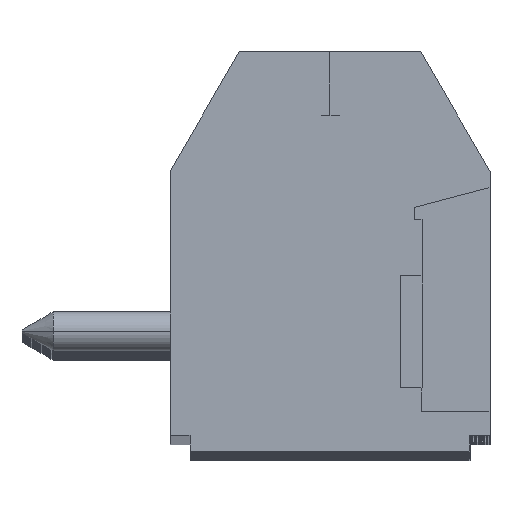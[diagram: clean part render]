
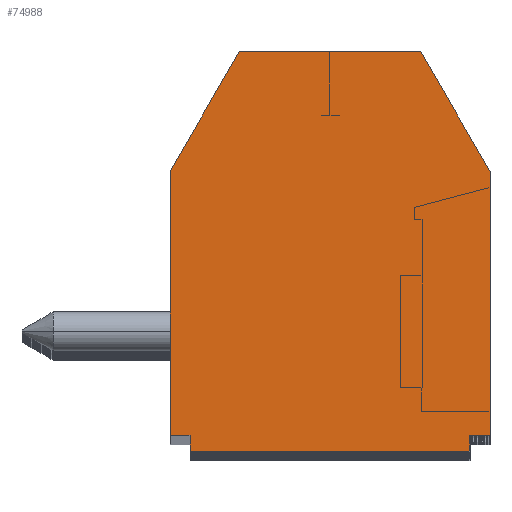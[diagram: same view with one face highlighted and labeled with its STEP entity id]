
A CAD part, top view. The second image highlights one B-rep face of the part: STEP entity #74988.
In plain terms, the highlighted planar face has unit normal (0, 0, 1).
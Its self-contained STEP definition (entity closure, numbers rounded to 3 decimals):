
#3987 = CARTESIAN_POINT ( 'NONE',  ( -3.062, -3.245, 0. ) ) ;
#14507 = CARTESIAN_POINT ( 'NONE',  ( -3.062, -2.845, 0. ) ) ;
#14508 = DIRECTION ( 'NONE',  ( 0., -1., 0. ) ) ;
#14509 = VECTOR ( 'NONE', #14508, 1000. ) ;
#14510 = CARTESIAN_POINT ( 'NONE',  ( -3.062, -3.045, 0. ) ) ;
#14511 = LINE ( 'NONE', #14510, #14509 ) ;
#17859 = CARTESIAN_POINT ( 'NONE',  ( 4.438, -2.845, 0. ) ) ;
#17880 = DIRECTION ( 'NONE',  ( 0., 1., 0. ) ) ;
#17881 = VECTOR ( 'NONE', #17880, 1000. ) ;
#17882 = CARTESIAN_POINT ( 'NONE',  ( 3.938, 1.755, 0. ) ) ;
#17883 = LINE ( 'NONE', #17882, #17881 ) ;
#17884 = CARTESIAN_POINT ( 'NONE',  ( 3.938, -2.845, 0. ) ) ;
#17904 = DIRECTION ( 'NONE',  ( 1., 0., 0. ) ) ;
#17905 = VECTOR ( 'NONE', #17904, 1000. ) ;
#17906 = CARTESIAN_POINT ( 'NONE',  ( 0.438, -3.245, 0. ) ) ;
#17907 = LINE ( 'NONE', #17906, #17905 ) ;
#17913 = CARTESIAN_POINT ( 'NONE',  ( 3.938, -3.245, 0. ) ) ;
#17919 = DIRECTION ( 'NONE',  ( 1., 0., 0. ) ) ;
#17920 = VECTOR ( 'NONE', #17919, 1000. ) ;
#17921 = CARTESIAN_POINT ( 'NONE',  ( 0.438, -2.845, 0. ) ) ;
#17922 = LINE ( 'NONE', #17921, #17920 ) ;
#18113 = CARTESIAN_POINT ( 'NONE',  ( 2.706, 6.755, 0. ) ) ;
#18125 = DIRECTION ( 'NONE',  ( -0.5, 0.866, 0. ) ) ;
#18126 = VECTOR ( 'NONE', #18125, 1000. ) ;
#18127 = CARTESIAN_POINT ( 'NONE',  ( 4.438, 3.755, 0. ) ) ;
#18128 = LINE ( 'NONE', #18127, #18126 ) ;
#18145 = CARTESIAN_POINT ( 'NONE',  ( 4.438, 3.755, 0. ) ) ;
#18157 = DIRECTION ( 'NONE',  ( -1., 0., 0. ) ) ;
#18158 = VECTOR ( 'NONE', #18157, 1000. ) ;
#18159 = CARTESIAN_POINT ( 'NONE',  ( -3.562, 6.755, 0. ) ) ;
#18160 = LINE ( 'NONE', #18159, #18158 ) ;
#18165 = CARTESIAN_POINT ( 'NONE',  ( -1.83, 6.755, 0. ) ) ;
#18185 = DIRECTION ( 'NONE',  ( 0., 1., 0. ) ) ;
#18186 = VECTOR ( 'NONE', #18185, 1000. ) ;
#18187 = CARTESIAN_POINT ( 'NONE',  ( 4.438, -3.245, 0. ) ) ;
#18188 = LINE ( 'NONE', #18187, #18186 ) ;
#18868 = VECTOR ( 'NONE', #18932, 1000. ) ;
#18869 = CARTESIAN_POINT ( 'NONE',  ( -3.562, -2.845, 0. ) ) ;
#18870 = LINE ( 'NONE', #18869, #18868 ) ;
#18931 = CARTESIAN_POINT ( 'NONE',  ( -3.562, -2.845, 0. ) ) ;
#18932 = DIRECTION ( 'NONE',  ( 1., 0., 0. ) ) ;
#18938 = DIRECTION ( 'NONE',  ( 0., 1., 0. ) ) ;
#18939 = VECTOR ( 'NONE', #18938, 1000. ) ;
#18940 = CARTESIAN_POINT ( 'NONE',  ( -3.562, 0.455, 0. ) ) ;
#18941 = LINE ( 'NONE', #18940, #18939 ) ;
#18943 = CARTESIAN_POINT ( 'NONE',  ( -3.562, 3.755, 0. ) ) ;
#18944 = DIRECTION ( 'NONE',  ( 0.5, 0.866, 0. ) ) ;
#18945 = VECTOR ( 'NONE', #18944, 1000. ) ;
#18946 = CARTESIAN_POINT ( 'NONE',  ( -2.696, 5.255, 0. ) ) ;
#18947 = LINE ( 'NONE', #18946, #18945 ) ;
#18948 = DIRECTION ( 'NONE',  ( 1., 0., 0. ) ) ;
#18949 = DIRECTION ( 'NONE',  ( 0., 0., 1. ) ) ;
#18951 = CARTESIAN_POINT ( 'NONE',  ( -3.562, -3.245, 0. ) ) ;
#18952 = AXIS2_PLACEMENT_3D ( 'NONE', #18951, #18949, #18948 ) ;
#18954 = PLANE ( 'NONE',  #18952 ) ;
#18955 = FACE_OUTER_BOUND ( 'NONE', #74989, .T. ) ;
#65033 = VERTEX_POINT ( 'NONE', #3987 ) ;
#71652 = EDGE_CURVE ( 'NONE', #71654, #65033, #14511, .T. ) ;
#71654 = VERTEX_POINT ( 'NONE', #14507 ) ;
#73623 = VERTEX_POINT ( 'NONE', #17884 ) ;
#73625 = EDGE_CURVE ( 'NONE', #73639, #73623, #17883, .T. ) ;
#73632 = VERTEX_POINT ( 'NONE', #17859 ) ;
#73634 = EDGE_CURVE ( 'NONE', #73623, #73632, #17922, .T. ) ;
#73639 = VERTEX_POINT ( 'NONE', #17913 ) ;
#73642 = EDGE_CURVE ( 'NONE', #65033, #73639, #17907, .T. ) ;
#74097 = EDGE_CURVE ( 'NONE', #74125, #74108, #18128, .T. ) ;
#74108 = VERTEX_POINT ( 'NONE', #18113 ) ;
#74115 = VERTEX_POINT ( 'NONE', #18165 ) ;
#74118 = EDGE_CURVE ( 'NONE', #74108, #74115, #18160, .T. ) ;
#74125 = VERTEX_POINT ( 'NONE', #18145 ) ;
#74161 = EDGE_CURVE ( 'NONE', #73632, #74125, #18188, .T. ) ;
#74866 = EDGE_CURVE ( 'NONE', #74867, #71654, #18870, .T. ) ;
#74867 = VERTEX_POINT ( 'NONE', #18931 ) ;
#74988 = ADVANCED_FACE ( 'NONE', ( #18955 ), #18954, .T. ) ;
#74989 = EDGE_LOOP ( 'NONE', ( #74990, #74991, #74992, #74993, #74994, #74997, #74999, #75057, #75058, #75059 ) ) ;
#74990 = ORIENTED_EDGE ( 'NONE', *, *, #73634, .T. ) ;
#74991 = ORIENTED_EDGE ( 'NONE', *, *, #74161, .T. ) ;
#74992 = ORIENTED_EDGE ( 'NONE', *, *, #74097, .T. ) ;
#74993 = ORIENTED_EDGE ( 'NONE', *, *, #74118, .T. ) ;
#74994 = ORIENTED_EDGE ( 'NONE', *, *, #74995, .F. ) ;
#74995 = EDGE_CURVE ( 'NONE', #74996, #74115, #18947, .T. ) ;
#74996 = VERTEX_POINT ( 'NONE', #18943 ) ;
#74997 = ORIENTED_EDGE ( 'NONE', *, *, #74998, .F. ) ;
#74998 = EDGE_CURVE ( 'NONE', #74867, #74996, #18941, .T. ) ;
#74999 = ORIENTED_EDGE ( 'NONE', *, *, #74866, .T. ) ;
#75057 = ORIENTED_EDGE ( 'NONE', *, *, #71652, .T. ) ;
#75058 = ORIENTED_EDGE ( 'NONE', *, *, #73642, .T. ) ;
#75059 = ORIENTED_EDGE ( 'NONE', *, *, #73625, .T. ) ;
